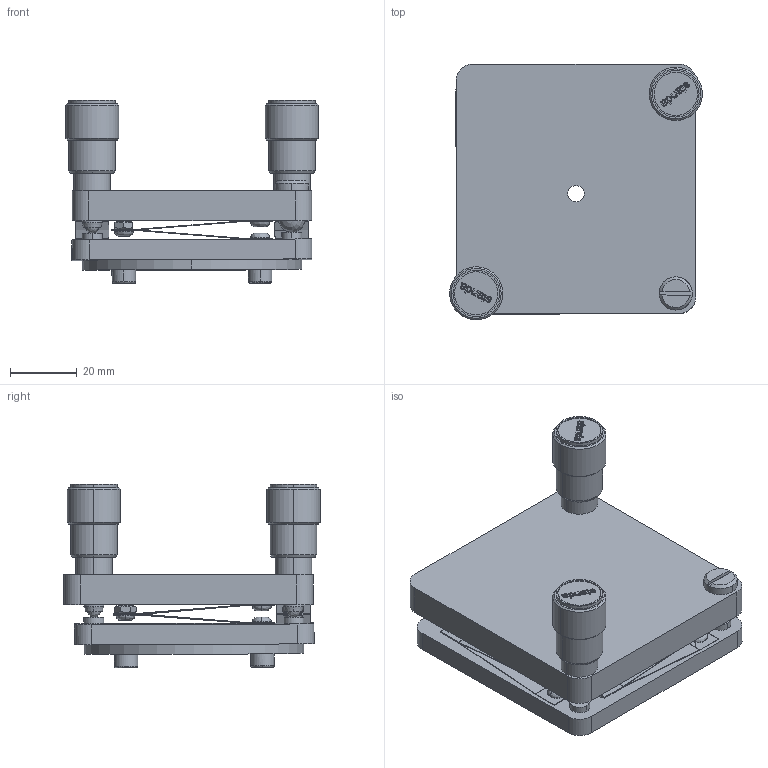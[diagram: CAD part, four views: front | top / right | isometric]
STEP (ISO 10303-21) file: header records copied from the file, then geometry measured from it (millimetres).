
FILE_DESCRIPTION (( 'STEP AP203' ), '1' );
FILE_NAME ('5OM61-RN2.STEP', '2008-05-15T21:46:14', ( 'STANDA' ), ( '' ), 'SwSTEP 2.0', 'SolidWorks 2003240', '' );
FILE_SCHEMA (( 'CONFIG_CONTROL_DESIGN' ));
Length unit declared in the file: millimetre
Products named in the file (1): 5OM61-RN2
Bounding box: 76 x 77 x 55.18 mm (x, y, z)
Volume: 80740.3 mm3; surface area: 35943.4 mm2
Topology: 1 solids, 7 shells, 882 faces, 2309 edges, 1526 vertices
Faces by surface type: plane 393, bspline 287, cylinder 135, cone 67
Entity records: 40485 total; most frequent: CARTESIAN_POINT 20666, ORIENTED_EDGE 4586, DIRECTION 3135, EDGE_CURVE 2293, VERTEX_POINT 1526, VECTOR 1209, LINE 1209, EDGE_LOOP 1011
